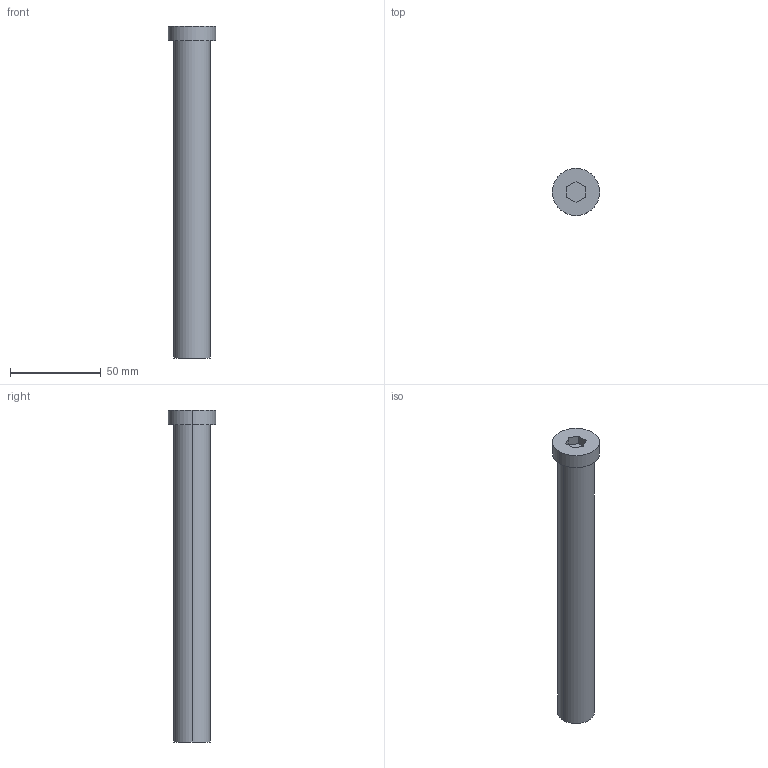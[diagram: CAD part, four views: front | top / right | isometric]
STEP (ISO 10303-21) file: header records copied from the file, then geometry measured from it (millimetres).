
FILE_DESCRIPTION (( 'STEP AP214' ), '1' );
FILE_NAME ('BruyRubio_TGH__20_x_175_-_M-12.STEP', '2019-12-22T23:38:16', ( '' ), ( '' ), 'SwSTEP 2.0', 'SolidWorks 2017', '' );
FILE_SCHEMA (( 'AUTOMOTIVE_DESIGN' ));
Length unit declared in the file: millimetre
Products named in the file (1): BruyRubio_TGH__20_x_175_-_M-12
Bounding box: 26 x 26 x 183 mm (x, y, z)
Volume: 56489.8 mm3; surface area: 15733.5 mm2
Topology: 2 solids, 2 shells, 27 faces, 58 edges, 37 vertices
Faces by surface type: plane 13, cylinder 12, cone 2
Entity records: 1070 total; most frequent: DIRECTION 136, CARTESIAN_POINT 121, ORIENTED_EDGE 112, EDGE_CURVE 56, AXIS2_PLACEMENT_3D 52, VERTEX_POINT 37, EDGE_LOOP 33, VECTOR 32
